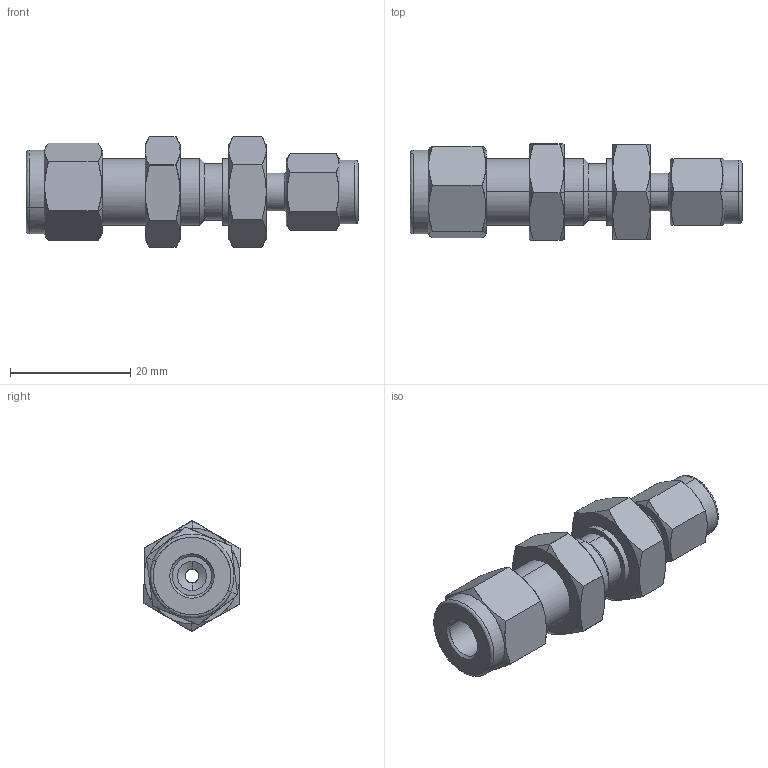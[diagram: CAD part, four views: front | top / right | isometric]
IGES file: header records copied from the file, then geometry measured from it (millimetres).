
Start section: Comment
Global section: file name: SBHRU4-2.igs; native system:  By UGS Corp.; preprocessor: XPlus GENERIC/IGES 3.0; author: Author; organization: Title; date: 20100528.111931; units: millimetre
Bounding box: 55.11 x 16.01 x 18.33 mm (x, y, z)
Surface area: 5247.8 mm2 (no closed solid volume)
Topology: 0 solids, 0 shells, 136 faces, 594 edges, 594 vertices
Faces by surface type: bspline 136
